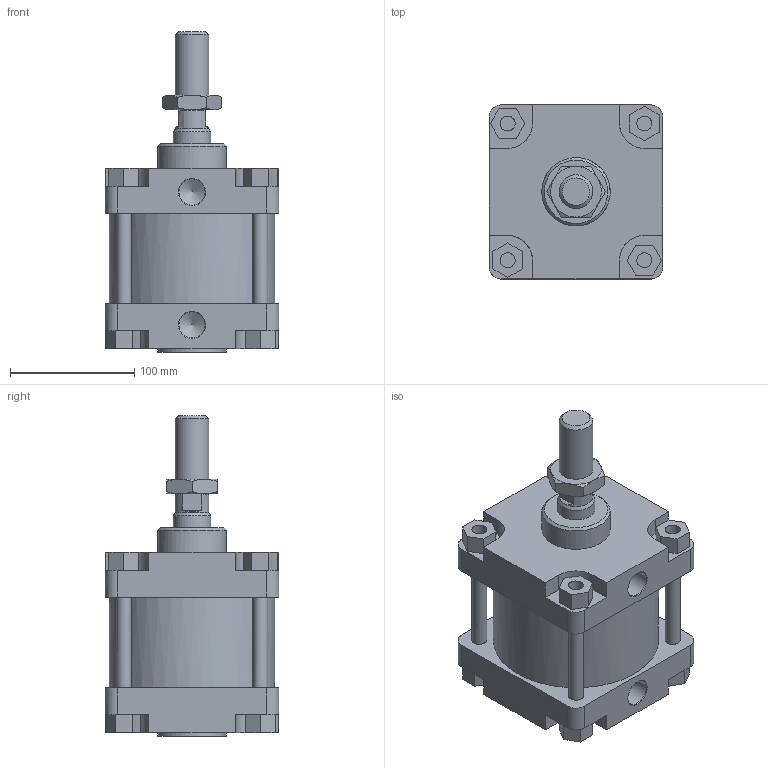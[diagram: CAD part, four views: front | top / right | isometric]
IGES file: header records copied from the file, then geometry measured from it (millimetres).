
Global section: file name: 1303_125_0000_01A; native system: Autodesk Inventor 2014; preprocessor: unknown; author: A. Manieri; date: 20161124.141341; units: millimetre
Bounding box: 140 x 140 x 258 mm (x, y, z)
Volume: 2453091.4 mm3; surface area: 289987.9 mm2
Topology: 9 solids, 9 shells, 175 faces, 440 edges, 295 vertices
Faces by surface type: bspline 175
